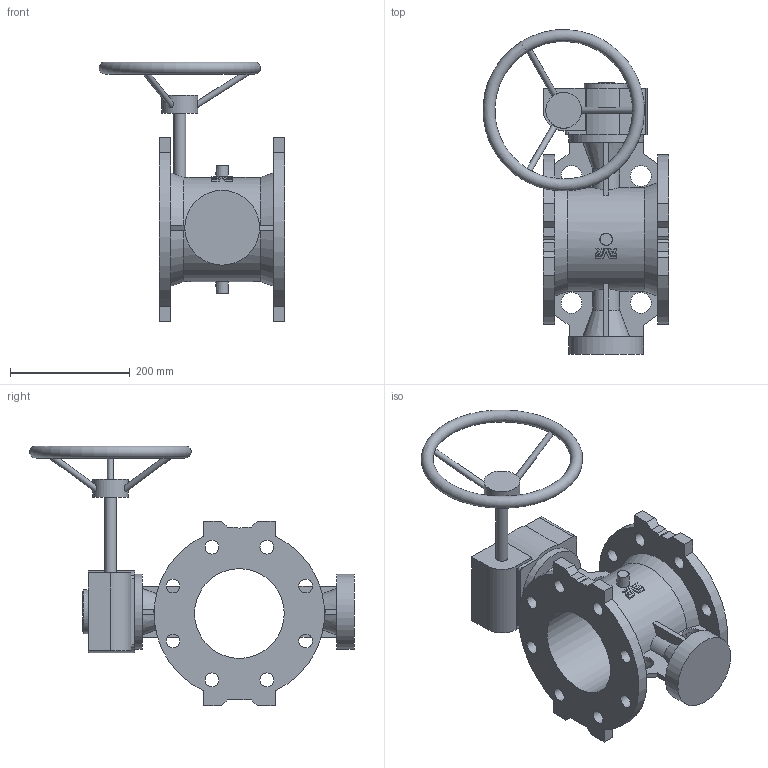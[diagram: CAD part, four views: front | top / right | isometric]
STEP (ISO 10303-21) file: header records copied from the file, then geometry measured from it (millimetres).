
FILE_DESCRIPTION (( 'STEP AP203' ), '1' );
FILE_NAME ('O_756_118_DN150_1XX180XX_AA0.step', '2019-07-09T08:25:44', ( 'Windows User' ), ( 'AVK' ), 'SwSTEP 2.0', 'SolidWorks 2012', '' );
FILE_SCHEMA (( 'CONFIG_CONTROL_DESIGN' ));
Length unit declared in the file: millimetre
Products named in the file (1): O_756_118_DN150_1XX180XX_AA0
Bounding box: 310.85 x 542.32 x 434.5 mm (x, y, z)
Volume: 6039338 mm3; surface area: 674875.9 mm2
Topology: 1 solids, 1 shells, 200 faces, 572 edges, 389 vertices
Faces by surface type: plane 127, cylinder 56, cone 14, bspline 2, torus 1
Full cylindrical faces by diameter (mm): 10 x3, 20 x1, 23 x16, 35 x4, 60 x1, 73 x1, 125 x2, 150 x1
Entity records: 7435 total; most frequent: CARTESIAN_POINT 2345, ORIENTED_EDGE 1030, DIRECTION 959, EDGE_CURVE 515, VERTEX_POINT 364, LINE 321, VECTOR 321, AXIS2_PLACEMENT_3D 319
